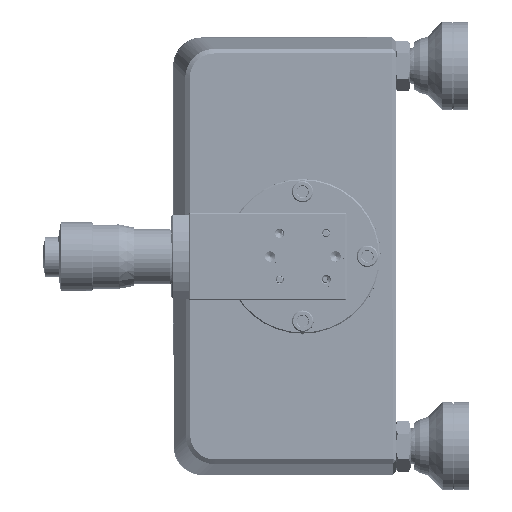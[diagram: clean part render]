
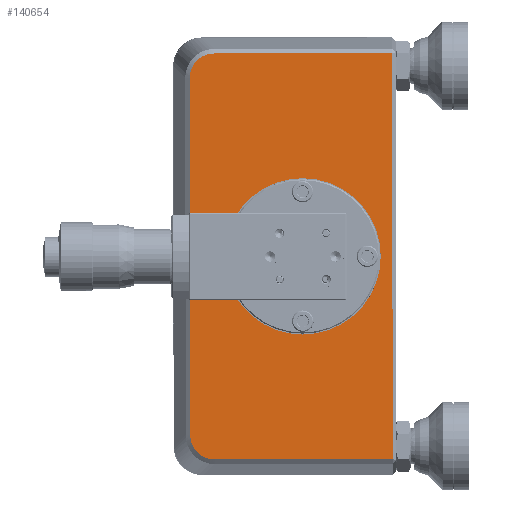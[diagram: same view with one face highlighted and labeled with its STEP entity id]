
A CAD part, left-side view. The second image highlights one B-rep face of the part: STEP entity #140654.
In plain terms, the highlighted planar face has unit normal (-1, -0.002, -0.001).
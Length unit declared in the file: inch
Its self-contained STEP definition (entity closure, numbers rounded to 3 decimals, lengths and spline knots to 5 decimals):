
#572 = CARTESIAN_POINT ( 'NONE',  ( -0.09362, -6.69017, -2.95432 ) ) ;
#1231 = DIRECTION ( 'NONE',  ( -0.002, 1., -0.001 ) ) ;
#4560 = ORIENTED_EDGE ( 'NONE', *, *, #291414, .T. ) ;
#13250 = PLANE ( 'NONE',  #40729 ) ;
#14373 = EDGE_CURVE ( 'NONE', #154426, #291416, #211956, .T. ) ;
#22729 = CARTESIAN_POINT ( 'NONE',  ( -0.0937, -6.66383, -2.87638 ) ) ;
#23189 = CARTESIAN_POINT ( 'NONE',  ( -0.09266, -7.62776, -1.98649 ) ) ;
#25129 = VERTEX_POINT ( 'NONE', #310316 ) ;
#27952 = CARTESIAN_POINT ( 'NONE',  ( -0.09514, -6.84099, 0.42257 ) ) ;
#29486 = ORIENTED_EDGE ( 'NONE', *, *, #42835, .T. ) ;
#31297 = CARTESIAN_POINT ( 'NONE',  ( -0.09524, -6.76305, 0.39624 ) ) ;
#40729 = AXIS2_PLACEMENT_3D ( 'NONE', #302305, #251460, #75852 ) ;
#42835 = EDGE_CURVE ( 'NONE', #162635, #47395, #212623, .T. ) ;
#43370 = EDGE_LOOP ( 'NONE', ( #139718, #309239 ) ) ;
#45768 = EDGE_LOOP ( 'NONE', ( #211892, #4560, #29486, #79063, #98511, #167224 ) ) ;
#47395 = VERTEX_POINT ( 'NONE', #159385 ) ;
#47668 = VERTEX_POINT ( 'NONE', #221964 ) ;
#48328 = CARTESIAN_POINT ( 'NONE',  ( -0.09372, -6.6638, -2.8489 ) ) ;
#48606 = CIRCLE ( 'NONE', #233157, 0.67 ) ;
#51856 = CARTESIAN_POINT ( 'NONE',  ( -0.09509, -6.86848, 0.42261 ) ) ;
#52028 = VERTEX_POINT ( 'NONE', #262699 ) ;
#55078 = CARTESIAN_POINT ( 'NONE',  ( -0.09337, -6.81799, -3.05219 ) ) ;
#57780 = FACE_BOUND ( 'NONE', #43370, .T. ) ;
#75852 = DIRECTION ( 'NONE',  ( 0.001, -0.001, -1. ) ) ;
#79063 = ORIENTED_EDGE ( 'NONE', *, *, #216555, .T. ) ;
#81743 = AXIS2_PLACEMENT_3D ( 'NONE', #239021, #216858, #164220 ) ;
#97076 = CARTESIAN_POINT ( 'NONE',  ( -0.09451, -6.66181, -1.31774 ) ) ;
#98511 = ORIENTED_EDGE ( 'NONE', *, *, #260247, .T. ) ;
#104744 = CARTESIAN_POINT ( 'NONE',  ( -0.09532, -6.65979, 0.24096 ) ) ;
#115733 = VECTOR ( 'NONE', #200765, 39.37008 ) ;
#122793 = CARTESIAN_POINT ( 'NONE',  ( -0.09089, -8.39914, -3.05557 ) ) ;
#131756 = CARTESIAN_POINT ( 'NONE',  ( -0.09358, -6.70569, -2.97754 ) ) ;
#131899 = CARTESIAN_POINT ( 'NONE',  ( -0.09518, -6.8135, 0.4171 ) ) ;
#135247 = CARTESIAN_POINT ( 'NONE',  ( -0.09527, -6.73984, 0.38072 ) ) ;
#139718 = ORIENTED_EDGE ( 'NONE', *, *, #14373, .F. ) ;
#140654 = ADVANCED_FACE ( 'NONE', ( #220889, #57780 ), #13250, .F. ) ;
#152649 = CARTESIAN_POINT ( 'NONE',  ( -0.09233, -7.47915, -3.05676 ) ) ;
#154426 = VERTEX_POINT ( 'NONE', #324949 ) ;
#155719 = CARTESIAN_POINT ( 'NONE',  ( -0.09532, -6.68593, 0.31891 ) ) ;
#158945 = CARTESIAN_POINT ( 'NONE',  ( -0.09328, -6.87299, -3.05755 ) ) ;
#159385 = CARTESIAN_POINT ( 'NONE',  ( -0.09271, -8.39463, 0.42459 ) ) ;
#161271 = CARTESIAN_POINT ( 'NONE',  ( -0.09414, -7.47463, 0.42339 ) ) ;
#162635 = VERTEX_POINT ( 'NONE', #122793 ) ;
#164220 = DIRECTION ( 'NONE',  ( -0.001, 0.001, 1. ) ) ;
#165303 = EDGE_CURVE ( 'NONE', #52028, #47668, #290995, .T. ) ;
#167224 = ORIENTED_EDGE ( 'NONE', *, *, #213392, .T. ) ;
#175004 = DIRECTION ( 'NONE',  ( -1., -0.002, -0.001 ) ) ;
#176702 = CARTESIAN_POINT ( 'NONE',  ( -0.093, -7.62689, -1.31649 ) ) ;
#200765 = DIRECTION ( 'NONE',  ( 0.001, -0.001, -1. ) ) ;
#208135 = CARTESIAN_POINT ( 'NONE',  ( -0.0935, -6.74424, -3.01599 ) ) ;
#208292 = CARTESIAN_POINT ( 'NONE',  ( -0.09531, -6.65983, 0.21342 ) ) ;
#211892 = ORIENTED_EDGE ( 'NONE', *, *, #165303, .T. ) ;
#211956 = CIRCLE ( 'NONE', #81743, 0.67 ) ;
#212623 = LINE ( 'NONE', #290727, #251930 ) ;
#213392 = EDGE_CURVE ( 'NONE', #25129, #52028, #277246, .T. ) ;
#216555 = EDGE_CURVE ( 'NONE', #47395, #261088, #232657, .T. ) ;
#216858 = DIRECTION ( 'NONE',  ( -1., -0.002, -0.001 ) ) ;
#220889 = FACE_OUTER_BOUND ( 'NONE', #45768, .T. ) ;
#221964 = CARTESIAN_POINT ( 'NONE',  ( -0.09328, -6.87299, -3.05755 ) ) ;
#232657 = LINE ( 'NONE', #161271, #246947 ) ;
#233157 = AXIS2_PLACEMENT_3D ( 'NONE', #176702, #175004, #300704 ) ;
#233683 = CARTESIAN_POINT ( 'NONE',  ( -0.09368, -6.6693, -2.90388 ) ) ;
#233844 = CARTESIAN_POINT ( 'NONE',  ( -0.09533, -6.66519, 0.26841 ) ) ;
#238861 = CARTESIAN_POINT ( 'NONE',  ( -0.09531, -6.70138, 0.34217 ) ) ;
#239021 = CARTESIAN_POINT ( 'NONE',  ( -0.093, -7.62689, -1.31649 ) ) ;
#240422 = CARTESIAN_POINT ( 'NONE',  ( -0.09346, -6.7675, -3.03145 ) ) ;
#246947 = VECTOR ( 'NONE', #1231, 39.37008 ) ;
#251460 = DIRECTION ( 'NONE',  ( 1., 0.002, 0.001 ) ) ;
#251930 = VECTOR ( 'NONE', #257005, 39.37008 ) ;
#252963 = VECTOR ( 'NONE', #256396, 39.37008 ) ;
#256396 = DIRECTION ( 'NONE',  ( 0.002, -1., 0.001 ) ) ;
#257005 = DIRECTION ( 'NONE',  ( -0.001, 0.001, 1. ) ) ;
#259010 = B_SPLINE_CURVE_WITH_KNOTS ( 'NONE', 3,
 ( #51856, #27952, #131899, #31297, #135247, #238861, #155719, #233844, #104744, #208292 ),
 .UNSPECIFIED., .F., .F.,
 ( 4, 2, 2, 2, 4 ),
 ( 0., 0.25, 0.5, 0.75, 1. ),
 .UNSPECIFIED. ) ;
#260247 = EDGE_CURVE ( 'NONE', #261088, #25129, #259010, .T. ) ;
#261088 = VERTEX_POINT ( 'NONE', #332431 ) ;
#262699 = CARTESIAN_POINT ( 'NONE',  ( -0.09372, -6.6638, -2.8489 ) ) ;
#277246 = LINE ( 'NONE', #97076, #115733 ) ;
#279188 = EDGE_CURVE ( 'NONE', #291416, #154426, #48606, .T. ) ;
#281702 = LINE ( 'NONE', #152649, #252963 ) ;
#289656 = CARTESIAN_POINT ( 'NONE',  ( -0.09332, -6.84545, -3.05758 ) ) ;
#290727 = CARTESIAN_POINT ( 'NONE',  ( -0.0918, -8.39689, -1.31549 ) ) ;
#290995 = B_SPLINE_CURVE_WITH_KNOTS ( 'NONE', 3,
 ( #48328, #22729, #233683, #572, #131756, #208135, #240422, #55078, #289656, #158945 ),
 .UNSPECIFIED., .F., .F.,
 ( 4, 2, 2, 2, 4 ),
 ( 0., 0.25, 0.5, 0.75, 1. ),
 .UNSPECIFIED. ) ;
#291414 = EDGE_CURVE ( 'NONE', #47668, #162635, #281702, .T. ) ;
#291416 = VERTEX_POINT ( 'NONE', #23189 ) ;
#300704 = DIRECTION ( 'NONE',  ( -0.001, 0.001, 1. ) ) ;
#302305 = CARTESIAN_POINT ( 'NONE',  ( -0.09324, -7.47689, -1.31668 ) ) ;
#309239 = ORIENTED_EDGE ( 'NONE', *, *, #279188, .F. ) ;
#310316 = CARTESIAN_POINT ( 'NONE',  ( -0.09531, -6.65983, 0.21342 ) ) ;
#324949 = CARTESIAN_POINT ( 'NONE',  ( -0.09335, -7.62602, -0.64649 ) ) ;
#332431 = CARTESIAN_POINT ( 'NONE',  ( -0.09509, -6.86848, 0.42261 ) ) ;
